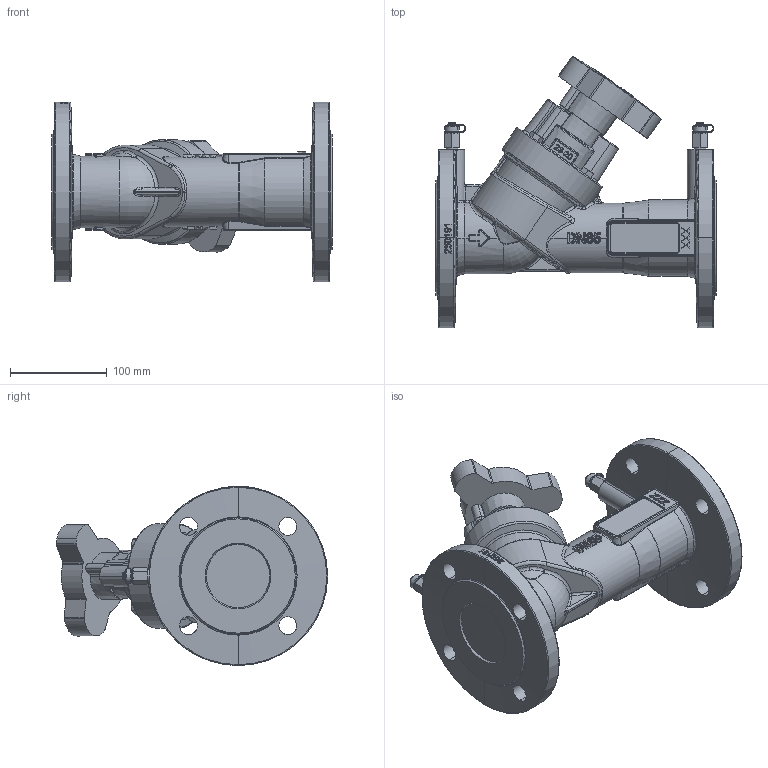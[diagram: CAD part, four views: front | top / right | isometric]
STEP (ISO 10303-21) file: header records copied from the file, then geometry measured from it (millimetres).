
FILE_DESCRIPTION (( 'STEP AP203' ), '1' );
FILE_NAME ('EKOFLUX.S006516P.STEP', '2021-09-14T06:39:46', ( '' ), ( '' ), 'SwSTEP 2.0', 'SolidWorks 2017', '' );
FILE_SCHEMA (( 'CONFIG_CONTROL_DESIGN' ));
Length unit declared in the file: millimetre
Products named in the file (1): EKOFLUX.S006516P
Bounding box: 290 x 280.06 x 185 mm (x, y, z)
Volume: 2989377.1 mm3; surface area: 256483.9 mm2
Topology: 1 solids, 12 shells, 1610 faces, 4091 edges, 2550 vertices
Faces by surface type: bspline 513, plane 507, cylinder 298, cone 157, torus 105, sphere 30
Entity records: 75983 total; most frequent: CARTESIAN_POINT 41702, ORIENTED_EDGE 8102, DIRECTION 5622, EDGE_CURVE 4051, VERTEX_POINT 2546, AXIS2_PLACEMENT_3D 2080, EDGE_LOOP 1719, FACE_OUTER_BOUND 1610
